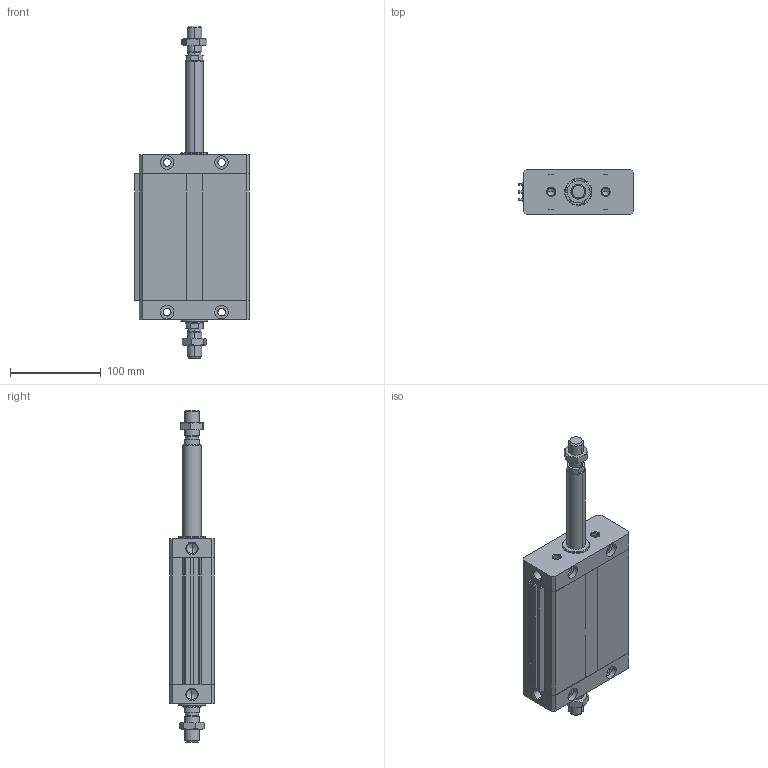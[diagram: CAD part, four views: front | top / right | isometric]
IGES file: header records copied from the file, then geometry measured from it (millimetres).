
Global section: file name: No Iges File Name specified; native system: Autodesk Inventor 2011; preprocessor: AutoDesk Inventor Iges Exporter R2011; author: airolcr1; date: 20101213.153518; units: millimetre
Bounding box: 126.75 x 50 x 366 mm (x, y, z)
Volume: 823623.4 mm3; surface area: 183023.8 mm2
Topology: 6 solids, 6 shells, 280 faces, 664 edges, 396 vertices
Faces by surface type: bspline 114, plane 98, cone 36, cylinder 18, revolution 14
